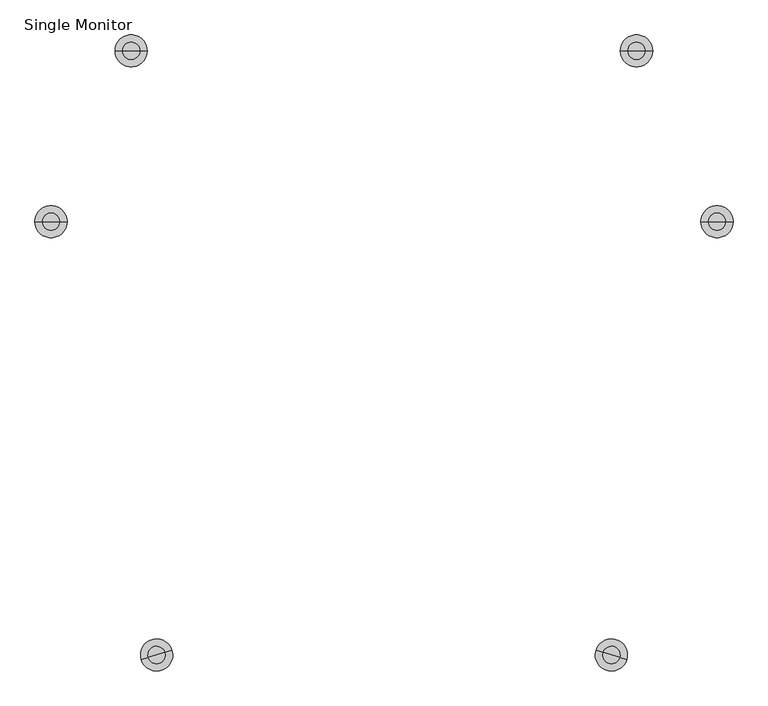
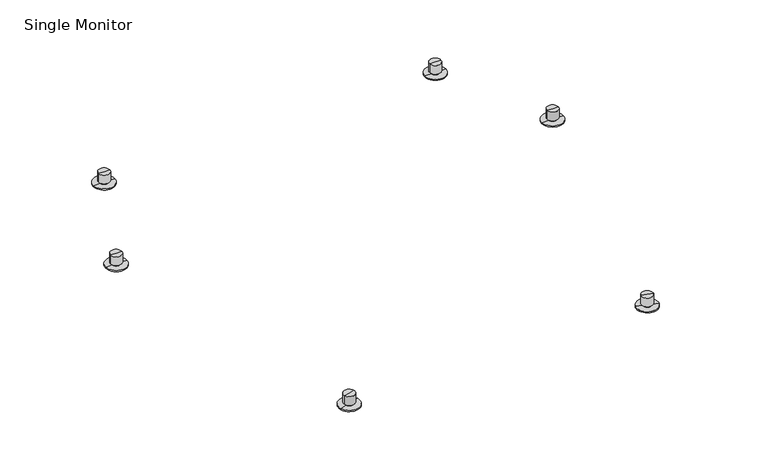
"""IFC4 building model written with IfcOpenShell, lengths in millimetres: furniture geometry, Steelcase - Media Scape - Table - Desk Height - Small D Shape with Attached Totem : Single Monitor."""

from ifc_helpers import new_model, si_unit, frame, origin, place, context, project, spatial, circle_curve, source, transform, mapped, element, save
from ifc_brep_helpers import plane_surface, cylinder_surface, advanced_brep


def single_monitor_ce154898(model_context):
    return source(origin(), model_context, "Body", "AdvancedBrep", [
        advanced_brep(
        [(485.6789396, -1123.2966322, 3.2766), (428.7557416, -1140.2672064, 3.2766), (428.7557416, -1140.2672064, 0.0), (485.6789396, -1123.2966322, 0.0), (467.8033176, -1128.6259106, 3.2766), (446.6313636, -1134.937928, 3.2766), (467.8033176, -1128.6259106, 9.1059), (446.6313636, -1134.937928, 9.1059), (472.5052285, -1127.2241248, 9.1059), (441.9294527, -1136.3397137, 9.1059), (472.5052285, -1127.2241248, 34.5059), (441.9294527, -1136.3397137, 34.5059), (457.2173406, -1131.7819193, 34.5059), (457.2173406, -1131.7819193, 0.0)],
        [
            (0, 1, circle_curve(frame((457.2173406, -1131.7819193, 3.2766), z_axis=(0.0, 0.0, -1.0), x_axis=(-0.9583178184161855, -0.28570432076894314, 0.0)), 29.6995407)),
            (1, 2),
            (2, 3, circle_curve(frame((457.2173406, -1131.7819193, 0.0), z_axis=(0.0, 0.0, 1.0), x_axis=(-0.9583178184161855, -0.28570432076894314, 0.0)), 29.6995407)),
            (3, 0),
            (1, 0, circle_curve(frame((457.2173406, -1131.7819193, 3.2766), z_axis=(0.0, 0.0, -1.0), x_axis=(-0.9583178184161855, -0.28570432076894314, 0.0)), 29.6995407)),
            (3, 2, circle_curve(frame((457.2173406, -1131.7819193, 0.0), z_axis=(0.0, 0.0, 1.0), x_axis=(-0.9583178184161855, -0.28570432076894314, 0.0)), 29.6995407)),
            (4, 5, circle_curve(frame((457.2173406, -1131.7819193, 3.2766), z_axis=(0.0, 0.0, -1.0), x_axis=(-0.9583178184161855, -0.28570432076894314, 0.0)), 11.0464157)),
            (5, 1),
            (0, 4),
            (5, 4, circle_curve(frame((457.2173406, -1131.7819193, 3.2766), z_axis=(0.0, 0.0, -1.0), x_axis=(-0.9583178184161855, -0.28570432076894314, 0.0)), 11.0464157)),
            (6, 7, circle_curve(frame((457.2173406, -1131.7819193, 9.1059), z_axis=(0.0, 0.0, -1.0), x_axis=(-0.9583178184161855, -0.28570432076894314, 0.0)), 11.0464157)),
            (7, 5),
            (4, 6),
            (7, 6, circle_curve(frame((457.2173406, -1131.7819193, 9.1059), z_axis=(0.0, 0.0, -1.0), x_axis=(-0.9583178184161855, -0.28570432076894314, 0.0)), 11.0464157)),
            (8, 9, circle_curve(frame((457.2173406, -1131.7819193, 9.1059), z_axis=(0.0, 0.0, -1.0), x_axis=(-0.9583178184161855, -0.28570432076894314, 0.0)), 15.9528369)),
            (9, 7),
            (6, 8),
            (9, 8, circle_curve(frame((457.2173406, -1131.7819193, 9.1059), z_axis=(0.0, 0.0, -1.0), x_axis=(-0.9583178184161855, -0.28570432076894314, 0.0)), 15.9528369)),
            (10, 11, circle_curve(frame((457.2173406, -1131.7819193, 34.5059), z_axis=(0.0, 0.0, -1.0), x_axis=(-0.9583178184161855, -0.28570432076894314, 0.0)), 15.9528369)),
            (11, 9),
            (8, 10),
            (11, 10, circle_curve(frame((457.2173406, -1131.7819193, 34.5059), z_axis=(0.0, 0.0, -1.0), x_axis=(-0.9583178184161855, -0.28570432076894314, 0.0)), 15.9528369)),
            (12, 11),
            (10, 12),
            (2, 13),
            (13, 3),
        ],
        [
            cylinder_surface(frame((457.2173406, -1131.7819193, 9.1059), z_axis=(0.0, 0.0, 1.0), x_axis=(-0.9583178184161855, -0.28570432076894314, 0.0)), 29.6995407),
            plane_surface(frame((457.2173406, -1131.7819193, 3.2766), z_axis=(0.0, 0.0, 1.0000000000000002), x_axis=(-0.9583178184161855, -0.28570432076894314, 0.0))),
            cylinder_surface(frame((457.2173406, -1131.7819193, 9.1059), z_axis=(0.0, 0.0, 1.0), x_axis=(-0.9583178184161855, -0.28570432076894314, 0.0)), 11.0464157),
            plane_surface(frame((457.2173406, -1131.7819193, 9.1059), z_axis=(0.0, 0.0, -1.0000000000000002), x_axis=(-0.9583178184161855, -0.28570432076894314, 0.0))),
            cylinder_surface(frame((457.2173406, -1131.7819193, 9.1059), z_axis=(0.0, 0.0, 1.0), x_axis=(-0.9583178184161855, -0.28570432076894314, 0.0)), 15.9528369),
            plane_surface(frame((457.2173406, -1131.7819193, 34.5059), z_axis=(0.0, 0.0, 1.0000000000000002), x_axis=(-0.9583178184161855, -0.28570432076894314, 0.0))),
            plane_surface(frame((457.2173406, -1131.7819193, 0.0), z_axis=(0.0, 0.0, -1.0000000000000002), x_axis=(-0.9583178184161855, -0.28570432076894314, 0.0))),
        ],
        [
            (0, [[1, 2, 3, 4]]),
            (0, [[5, -4, 6, -2]]),
            (1, [[7, 8, -1, 9]]),
            (1, [[10, -9, -5, -8]]),
            (2, [[11, 12, -7, 13]]),
            (2, [[14, -13, -10, -12]]),
            (3, [[15, 16, -11, 17]]),
            (3, [[18, -17, -14, -16]]),
            (4, [[19, 20, -15, 21]]),
            (4, [[22, -21, -18, -20]]),
            (5, [[23, -19, 24]]),
            (5, [[-24, -22, -23]]),
            (6, [[-3, 25, 26]]),
            (6, [[-6, -26, -25]]),
        ],
    ),
        advanced_brep(
        [(1297.4008909, -1131.7819193, 0.0), (1325.8624899, -1140.2672064, 0.0), (1268.9392919, -1123.2966322, 0.0), (1282.113003, -1127.2241248, 34.5059), (1312.6887788, -1136.3397137, 34.5059), (1297.4008909, -1131.7819193, 34.5059), (1282.113003, -1127.2241248, 9.1059), (1312.6887788, -1136.3397137, 9.1059), (1286.8149139, -1128.6259106, 9.1059), (1307.9868679, -1134.937928, 9.1059), (1286.8149139, -1128.6259106, 3.2766), (1307.9868679, -1134.937928, 3.2766), (1268.9392919, -1123.2966322, 3.2766), (1325.8624899, -1140.2672064, 3.2766)],
        [
            (0, 1),
            (1, 2, circle_curve(frame((1297.4008909, -1131.7819193, 0.0), z_axis=(0.0, 0.0, -1.0), x_axis=(0.9583178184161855, -0.28570432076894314, 0.0)), 29.6995407)),
            (2, 0),
            (2, 1, circle_curve(frame((1297.4008909, -1131.7819193, 0.0), z_axis=(0.0, 0.0, -1.0), x_axis=(0.9583178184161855, -0.28570432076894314, 0.0)), 29.6995407)),
            (3, 4, circle_curve(frame((1297.4008909, -1131.7819193, 34.5059), z_axis=(0.0, 0.0, 1.0), x_axis=(0.9583178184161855, -0.28570432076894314, 0.0)), 15.9528369)),
            (4, 5),
            (5, 3),
            (4, 3, circle_curve(frame((1297.4008909, -1131.7819193, 34.5059), z_axis=(0.0, 0.0, 1.0), x_axis=(0.9583178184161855, -0.28570432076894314, 0.0)), 15.9528369)),
            (6, 7, circle_curve(frame((1297.4008909, -1131.7819193, 9.1059), z_axis=(0.0, 0.0, 1.0), x_axis=(0.9583178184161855, -0.28570432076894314, 0.0)), 15.9528369)),
            (7, 4),
            (3, 6),
            (7, 6, circle_curve(frame((1297.4008909, -1131.7819193, 9.1059), z_axis=(0.0, 0.0, 1.0), x_axis=(0.9583178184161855, -0.28570432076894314, 0.0)), 15.9528369)),
            (8, 9, circle_curve(frame((1297.4008909, -1131.7819193, 9.1059), z_axis=(0.0, 0.0, 1.0), x_axis=(0.9583178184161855, -0.28570432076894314, 0.0)), 11.0464157)),
            (9, 7),
            (6, 8),
            (9, 8, circle_curve(frame((1297.4008909, -1131.7819193, 9.1059), z_axis=(0.0, 0.0, 1.0), x_axis=(0.9583178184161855, -0.28570432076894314, 0.0)), 11.0464157)),
            (10, 11, circle_curve(frame((1297.4008909, -1131.7819193, 3.2766), z_axis=(0.0, 0.0, 1.0), x_axis=(0.9583178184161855, -0.28570432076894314, 0.0)), 11.0464157)),
            (11, 9),
            (8, 10),
            (11, 10, circle_curve(frame((1297.4008909, -1131.7819193, 3.2766), z_axis=(0.0, 0.0, 1.0), x_axis=(0.9583178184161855, -0.28570432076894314, 0.0)), 11.0464157)),
            (12, 13, circle_curve(frame((1297.4008909, -1131.7819193, 3.2766), z_axis=(0.0, 0.0, 1.0), x_axis=(0.9583178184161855, -0.28570432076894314, 0.0)), 29.6995407)),
            (13, 11),
            (10, 12),
            (13, 12, circle_curve(frame((1297.4008909, -1131.7819193, 3.2766), z_axis=(0.0, 0.0, 1.0), x_axis=(0.9583178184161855, -0.28570432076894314, 0.0)), 29.6995407)),
            (1, 13),
            (12, 2),
        ],
        [
            plane_surface(frame((1297.4008909, -1131.7819193, 0.0), z_axis=(0.0, 0.0, -1.0000000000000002), x_axis=(0.9583178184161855, -0.28570432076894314, 0.0))),
            plane_surface(frame((1297.4008909, -1131.7819193, 34.5059), z_axis=(0.0, 0.0, 1.0000000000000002), x_axis=(0.9583178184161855, -0.28570432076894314, 0.0))),
            cylinder_surface(frame((1297.4008909, -1131.7819193, 9.1059), z_axis=(0.0, 0.0, -1.0), x_axis=(0.9583178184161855, -0.28570432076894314, 0.0)), 15.9528369),
            plane_surface(frame((1297.4008909, -1131.7819193, 9.1059), z_axis=(0.0, 0.0, -1.0000000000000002), x_axis=(0.9583178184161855, -0.28570432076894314, 0.0))),
            cylinder_surface(frame((1297.4008909, -1131.7819193, 9.1059), z_axis=(0.0, 0.0, -1.0), x_axis=(0.9583178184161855, -0.28570432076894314, 0.0)), 11.0464157),
            plane_surface(frame((1297.4008909, -1131.7819193, 3.2766), z_axis=(0.0, 0.0, 1.0000000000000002), x_axis=(0.9583178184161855, -0.28570432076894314, 0.0))),
            cylinder_surface(frame((1297.4008909, -1131.7819193, 9.1059), z_axis=(0.0, 0.0, -1.0), x_axis=(0.9583178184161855, -0.28570432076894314, 0.0)), 29.6995407),
        ],
        [
            (0, [[1, 2, 3]]),
            (0, [[-3, 4, -1]]),
            (1, [[5, 6, 7]]),
            (1, [[8, -7, -6]]),
            (2, [[9, 10, -5, 11]]),
            (2, [[12, -11, -8, -10]]),
            (3, [[13, 14, -9, 15]]),
            (3, [[16, -15, -12, -14]]),
            (4, [[17, 18, -13, 19]]),
            (4, [[20, -19, -16, -18]]),
            (5, [[21, 22, -17, 23]]),
            (5, [[24, -23, -20, -22]]),
            (6, [[-2, 25, -21, 26]]),
            (6, [[-4, -26, -24, -25]]),
        ],
    ),
        advanced_brep(
        [(1462.7661204, -331.3137623, 3.2766), (1522.1652018, -331.3137623, 3.2766), (1522.1652018, -331.3137623, 0.0), (1462.7661204, -331.3137623, 0.0), (1481.4192454, -331.3137623, 3.2766), (1503.5120768, -331.3137623, 3.2766), (1481.4192454, -331.3137623, 9.1059), (1503.5120768, -331.3137623, 9.1059), (1476.5128242, -331.3137623, 9.1059), (1508.418498, -331.3137623, 9.1059), (1476.5128242, -331.3137623, 34.5059), (1508.418498, -331.3137623, 34.5059), (1492.4656611, -331.3137623, 34.5059), (1492.4656611, -331.3137623, 0.0)],
        [
            (0, 1, circle_curve(frame((1492.4656611, -331.3137623, 3.2766), z_axis=(0.0, 0.0, -1.0), x_axis=(1.0, 0.0, 0.0)), 29.6995407)),
            (1, 2),
            (2, 3, circle_curve(frame((1492.4656611, -331.3137623, 0.0), z_axis=(0.0, 0.0, 1.0), x_axis=(1.0, 0.0, 0.0)), 29.6995407)),
            (3, 0),
            (1, 0, circle_curve(frame((1492.4656611, -331.3137623, 3.2766), z_axis=(0.0, 0.0, -1.0), x_axis=(1.0, 0.0, 0.0)), 29.6995407)),
            (3, 2, circle_curve(frame((1492.4656611, -331.3137623, 0.0), z_axis=(0.0, 0.0, 1.0), x_axis=(1.0, 0.0, 0.0)), 29.6995407)),
            (4, 5, circle_curve(frame((1492.4656611, -331.3137623, 3.2766), z_axis=(0.0, 0.0, -1.0), x_axis=(1.0, 0.0, 0.0)), 11.0464157)),
            (5, 1),
            (0, 4),
            (5, 4, circle_curve(frame((1492.4656611, -331.3137623, 3.2766), z_axis=(0.0, 0.0, -1.0), x_axis=(1.0, 0.0, 0.0)), 11.0464157)),
            (6, 7, circle_curve(frame((1492.4656611, -331.3137623, 9.1059), z_axis=(0.0, 0.0, -1.0), x_axis=(1.0, 0.0, 0.0)), 11.0464157)),
            (7, 5),
            (4, 6),
            (7, 6, circle_curve(frame((1492.4656611, -331.3137623, 9.1059), z_axis=(0.0, 0.0, -1.0), x_axis=(1.0, 0.0, 0.0)), 11.0464157)),
            (8, 9, circle_curve(frame((1492.4656611, -331.3137623, 9.1059), z_axis=(0.0, 0.0, -1.0), x_axis=(1.0, 0.0, 0.0)), 15.9528369)),
            (9, 7),
            (6, 8),
            (9, 8, circle_curve(frame((1492.4656611, -331.3137623, 9.1059), z_axis=(0.0, 0.0, -1.0), x_axis=(1.0, 0.0, 0.0)), 15.9528369)),
            (10, 11, circle_curve(frame((1492.4656611, -331.3137623, 34.5059), z_axis=(0.0, 0.0, -1.0), x_axis=(1.0, 0.0, 0.0)), 15.9528369)),
            (11, 9),
            (8, 10),
            (11, 10, circle_curve(frame((1492.4656611, -331.3137623, 34.5059), z_axis=(0.0, 0.0, -1.0), x_axis=(1.0, 0.0, 0.0)), 15.9528369)),
            (12, 11),
            (10, 12),
            (2, 13),
            (13, 3),
        ],
        [
            cylinder_surface(frame((1492.4656611, -331.3137623, 9.1059), z_axis=(0.0, 0.0, 1.0), x_axis=(1.0, 0.0, 0.0)), 29.6995407),
            plane_surface(frame((1492.4656611, -331.3137623, 3.2766), z_axis=(0.0, 0.0, 1.0), x_axis=(1.0, 0.0, 0.0))),
            cylinder_surface(frame((1492.4656611, -331.3137623, 9.1059), z_axis=(0.0, 0.0, 1.0), x_axis=(1.0, 0.0, 0.0)), 11.0464157),
            plane_surface(frame((1492.4656611, -331.3137623, 9.1059), z_axis=(0.0, 0.0, -1.0), x_axis=(1.0, 0.0, 0.0))),
            cylinder_surface(frame((1492.4656611, -331.3137623, 9.1059), z_axis=(0.0, 0.0, 1.0), x_axis=(1.0, 0.0, 0.0)), 15.9528369),
            plane_surface(frame((1492.4656611, -331.3137623, 34.5059), z_axis=(0.0, 0.0, 1.0), x_axis=(1.0, 0.0, 0.0))),
            plane_surface(frame((1492.4656611, -331.3137623, 0.0), z_axis=(0.0, 0.0, -1.0), x_axis=(1.0, 0.0, 0.0))),
        ],
        [
            (0, [[1, 2, 3, 4]]),
            (0, [[5, -4, 6, -2]]),
            (1, [[7, 8, -1, 9]]),
            (1, [[10, -9, -5, -8]]),
            (2, [[11, 12, -7, 13]]),
            (2, [[14, -13, -10, -12]]),
            (3, [[15, 16, -11, 17]]),
            (3, [[18, -17, -14, -16]]),
            (4, [[19, 20, -15, 21]]),
            (4, [[22, -21, -18, -20]]),
            (5, [[23, -19, 24]]),
            (5, [[-24, -22, -23]]),
            (6, [[-3, 25, 26]]),
            (6, [[-6, -26, -25]]),
        ],
    ),
        advanced_brep(
        [(262.1525798, -331.3137623, 0.0), (232.4530391, -331.3137623, 0.0), (291.8521204, -331.3137623, 0.0), (278.1054167, -331.3137623, 34.5059), (246.1997428, -331.3137623, 34.5059), (262.1525798, -331.3137623, 34.5059), (278.1054167, -331.3137623, 9.1059), (246.1997428, -331.3137623, 9.1059), (273.1989954, -331.3137623, 9.1059), (251.1061641, -331.3137623, 9.1059), (273.1989954, -331.3137623, 3.2766), (251.1061641, -331.3137623, 3.2766), (291.8521204, -331.3137623, 3.2766), (232.4530391, -331.3137623, 3.2766)],
        [
            (0, 1),
            (1, 2, circle_curve(frame((262.1525798, -331.3137623, 0.0), z_axis=(0.0, 0.0, -1.0), x_axis=(-1.0, 0.0, 0.0)), 29.6995407)),
            (2, 0),
            (2, 1, circle_curve(frame((262.1525798, -331.3137623, 0.0), z_axis=(0.0, 0.0, -1.0), x_axis=(-1.0, 0.0, 0.0)), 29.6995407)),
            (3, 4, circle_curve(frame((262.1525798, -331.3137623, 34.5059), z_axis=(0.0, 0.0, 1.0), x_axis=(-1.0, 0.0, 0.0)), 15.9528369)),
            (4, 5),
            (5, 3),
            (4, 3, circle_curve(frame((262.1525798, -331.3137623, 34.5059), z_axis=(0.0, 0.0, 1.0), x_axis=(-1.0, 0.0, 0.0)), 15.9528369)),
            (6, 7, circle_curve(frame((262.1525798, -331.3137623, 9.1059), z_axis=(0.0, 0.0, 1.0), x_axis=(-1.0, 0.0, 0.0)), 15.9528369)),
            (7, 4),
            (3, 6),
            (7, 6, circle_curve(frame((262.1525798, -331.3137623, 9.1059), z_axis=(0.0, 0.0, 1.0), x_axis=(-1.0, 0.0, 0.0)), 15.9528369)),
            (8, 9, circle_curve(frame((262.1525798, -331.3137623, 9.1059), z_axis=(0.0, 0.0, 1.0), x_axis=(-1.0, 0.0, 0.0)), 11.0464157)),
            (9, 7),
            (6, 8),
            (9, 8, circle_curve(frame((262.1525798, -331.3137623, 9.1059), z_axis=(0.0, 0.0, 1.0), x_axis=(-1.0, 0.0, 0.0)), 11.0464157)),
            (10, 11, circle_curve(frame((262.1525798, -331.3137623, 3.2766), z_axis=(0.0, 0.0, 1.0), x_axis=(-1.0, 0.0, 0.0)), 11.0464157)),
            (11, 9),
            (8, 10),
            (11, 10, circle_curve(frame((262.1525798, -331.3137623, 3.2766), z_axis=(0.0, 0.0, 1.0), x_axis=(-1.0, 0.0, 0.0)), 11.0464157)),
            (12, 13, circle_curve(frame((262.1525798, -331.3137623, 3.2766), z_axis=(0.0, 0.0, 1.0), x_axis=(-1.0, 0.0, 0.0)), 29.6995407)),
            (13, 11),
            (10, 12),
            (13, 12, circle_curve(frame((262.1525798, -331.3137623, 3.2766), z_axis=(0.0, 0.0, 1.0), x_axis=(-1.0, 0.0, 0.0)), 29.6995407)),
            (1, 13),
            (12, 2),
        ],
        [
            plane_surface(frame((262.1525798, -331.3137623, 0.0), z_axis=(0.0, 0.0, -1.0), x_axis=(-1.0, 0.0, 0.0))),
            plane_surface(frame((262.1525798, -331.3137623, 34.5059), z_axis=(0.0, 0.0, 1.0), x_axis=(-1.0, 0.0, 0.0))),
            cylinder_surface(frame((262.1525798, -331.3137623, 9.1059), z_axis=(0.0, 0.0, -1.0), x_axis=(-1.0, 0.0, 0.0)), 15.9528369),
            plane_surface(frame((262.1525798, -331.3137623, 9.1059), z_axis=(0.0, 0.0, -1.0), x_axis=(-1.0, 0.0, 0.0))),
            cylinder_surface(frame((262.1525798, -331.3137623, 9.1059), z_axis=(0.0, 0.0, -1.0), x_axis=(-1.0, 0.0, 0.0)), 11.0464157),
            plane_surface(frame((262.1525798, -331.3137623, 3.2766), z_axis=(0.0, 0.0, 1.0), x_axis=(-1.0, 0.0, 0.0))),
            cylinder_surface(frame((262.1525798, -331.3137623, 9.1059), z_axis=(0.0, 0.0, -1.0), x_axis=(-1.0, 0.0, 0.0)), 29.6995407),
        ],
        [
            (0, [[1, 2, 3]]),
            (0, [[-3, 4, -1]]),
            (1, [[5, 6, 7]]),
            (1, [[8, -7, -6]]),
            (2, [[9, 10, -5, 11]]),
            (2, [[12, -11, -8, -10]]),
            (3, [[13, 14, -9, 15]]),
            (3, [[16, -15, -12, -14]]),
            (4, [[17, 18, -13, 19]]),
            (4, [[20, -19, -16, -18]]),
            (5, [[21, 22, -17, 23]]),
            (5, [[24, -23, -20, -22]]),
            (6, [[-2, 25, -21, 26]]),
            (6, [[-4, -26, -24, -25]]),
        ],
    ),
        advanced_brep(
        [(1343.693159, -15.9494141, 0.0), (1313.9936183, -15.9494141, 0.0), (1373.3926997, -15.9494141, 0.0), (1359.6459959, -15.9494141, 34.5059), (1327.7403221, -15.9494141, 34.5059), (1343.693159, -15.9494141, 34.5059), (1359.6459959, -15.9494141, 9.1059), (1327.7403221, -15.9494141, 9.1059), (1354.7395747, -15.9494141, 9.1059), (1332.6467433, -15.9494141, 9.1059), (1354.7395747, -15.9494141, 3.2766), (1332.6467433, -15.9494141, 3.2766), (1373.3926997, -15.9494141, 3.2766), (1313.9936183, -15.9494141, 3.2766)],
        [
            (0, 1),
            (1, 2, circle_curve(frame((1343.693159, -15.9494141, 0.0), z_axis=(0.0, 0.0, -1.0), x_axis=(-1.0, 0.0, 0.0)), 29.6995407)),
            (2, 0),
            (2, 1, circle_curve(frame((1343.693159, -15.9494141, 0.0), z_axis=(0.0, 0.0, -1.0), x_axis=(-1.0, 0.0, 0.0)), 29.6995407)),
            (3, 4, circle_curve(frame((1343.693159, -15.9494141, 34.5059), z_axis=(0.0, 0.0, 1.0), x_axis=(-1.0, 0.0, 0.0)), 15.9528369)),
            (4, 5),
            (5, 3),
            (4, 3, circle_curve(frame((1343.693159, -15.9494141, 34.5059), z_axis=(0.0, 0.0, 1.0), x_axis=(-1.0, 0.0, 0.0)), 15.9528369)),
            (6, 7, circle_curve(frame((1343.693159, -15.9494141, 9.1059), z_axis=(0.0, 0.0, 1.0), x_axis=(-1.0, 0.0, 0.0)), 15.9528369)),
            (7, 4),
            (3, 6),
            (7, 6, circle_curve(frame((1343.693159, -15.9494141, 9.1059), z_axis=(0.0, 0.0, 1.0), x_axis=(-1.0, 0.0, 0.0)), 15.9528369)),
            (8, 9, circle_curve(frame((1343.693159, -15.9494141, 9.1059), z_axis=(0.0, 0.0, 1.0), x_axis=(-1.0, 0.0, 0.0)), 11.0464157)),
            (9, 7),
            (6, 8),
            (9, 8, circle_curve(frame((1343.693159, -15.9494141, 9.1059), z_axis=(0.0, 0.0, 1.0), x_axis=(-1.0, 0.0, 0.0)), 11.0464157)),
            (10, 11, circle_curve(frame((1343.693159, -15.9494141, 3.2766), z_axis=(0.0, 0.0, 1.0), x_axis=(-1.0, 0.0, 0.0)), 11.0464157)),
            (11, 9),
            (8, 10),
            (11, 10, circle_curve(frame((1343.693159, -15.9494141, 3.2766), z_axis=(0.0, 0.0, 1.0), x_axis=(-1.0, 0.0, 0.0)), 11.0464157)),
            (12, 13, circle_curve(frame((1343.693159, -15.9494141, 3.2766), z_axis=(0.0, 0.0, 1.0), x_axis=(-1.0, 0.0, 0.0)), 29.6995407)),
            (13, 11),
            (10, 12),
            (13, 12, circle_curve(frame((1343.693159, -15.9494141, 3.2766), z_axis=(0.0, 0.0, 1.0), x_axis=(-1.0, 0.0, 0.0)), 29.6995407)),
            (1, 13),
            (12, 2),
        ],
        [
            plane_surface(frame((1343.693159, -15.9494141, 0.0), z_axis=(0.0, 0.0, -1.0), x_axis=(-1.0, 0.0, 0.0))),
            plane_surface(frame((1343.693159, -15.9494141, 34.5059), z_axis=(0.0, 0.0, 1.0), x_axis=(-1.0, 0.0, 0.0))),
            cylinder_surface(frame((1343.693159, -15.9494141, 9.1059), z_axis=(0.0, 0.0, -1.0), x_axis=(-1.0, 0.0, 0.0)), 15.9528369),
            plane_surface(frame((1343.693159, -15.9494141, 9.1059), z_axis=(0.0, 0.0, -1.0), x_axis=(-1.0, 0.0, 0.0))),
            cylinder_surface(frame((1343.693159, -15.9494141, 9.1059), z_axis=(0.0, 0.0, -1.0), x_axis=(-1.0, 0.0, 0.0)), 11.0464157),
            plane_surface(frame((1343.693159, -15.9494141, 3.2766), z_axis=(0.0, 0.0, 1.0), x_axis=(-1.0, 0.0, 0.0))),
            cylinder_surface(frame((1343.693159, -15.9494141, 9.1059), z_axis=(0.0, 0.0, -1.0), x_axis=(-1.0, 0.0, 0.0)), 29.6995407),
        ],
        [
            (0, [[1, 2, 3]]),
            (0, [[-3, 4, -1]]),
            (1, [[5, 6, 7]]),
            (1, [[8, -7, -6]]),
            (2, [[9, 10, -5, 11]]),
            (2, [[12, -11, -8, -10]]),
            (3, [[13, 14, -9, 15]]),
            (3, [[16, -15, -12, -14]]),
            (4, [[17, 18, -13, 19]]),
            (4, [[20, -19, -16, -18]]),
            (5, [[21, 22, -17, 23]]),
            (5, [[24, -23, -20, -22]]),
            (6, [[-2, 25, -21, 26]]),
            (6, [[-4, -26, -24, -25]]),
        ],
    ),
        advanced_brep(
        [(410.243159, -15.9494141, 0.0), (380.5436183, -15.9494141, 0.0), (439.9426997, -15.9494141, 0.0), (426.1959959, -15.9494141, 34.5059), (394.2903221, -15.9494141, 34.5059), (410.243159, -15.9494141, 34.5059), (426.1959959, -15.9494141, 9.1059), (394.2903221, -15.9494141, 9.1059), (421.2895747, -15.9494141, 9.1059), (399.1967433, -15.9494141, 9.1059), (421.2895747, -15.9494141, 3.2766), (399.1967433, -15.9494141, 3.2766), (439.9426997, -15.9494141, 3.2766), (380.5436183, -15.9494141, 3.2766)],
        [
            (0, 1),
            (1, 2, circle_curve(frame((410.243159, -15.9494141, 0.0), z_axis=(0.0, 0.0, -1.0), x_axis=(-1.0, 0.0, 0.0)), 29.6995407)),
            (2, 0),
            (2, 1, circle_curve(frame((410.243159, -15.9494141, 0.0), z_axis=(0.0, 0.0, -1.0), x_axis=(-1.0, 0.0, 0.0)), 29.6995407)),
            (3, 4, circle_curve(frame((410.243159, -15.9494141, 34.5059), z_axis=(0.0, 0.0, 1.0), x_axis=(-1.0, 0.0, 0.0)), 15.9528369)),
            (4, 5),
            (5, 3),
            (4, 3, circle_curve(frame((410.243159, -15.9494141, 34.5059), z_axis=(0.0, 0.0, 1.0), x_axis=(-1.0, 0.0, 0.0)), 15.9528369)),
            (6, 7, circle_curve(frame((410.243159, -15.9494141, 9.1059), z_axis=(0.0, 0.0, 1.0), x_axis=(-1.0, 0.0, 0.0)), 15.9528369)),
            (7, 4),
            (3, 6),
            (7, 6, circle_curve(frame((410.243159, -15.9494141, 9.1059), z_axis=(0.0, 0.0, 1.0), x_axis=(-1.0, 0.0, 0.0)), 15.9528369)),
            (8, 9, circle_curve(frame((410.243159, -15.9494141, 9.1059), z_axis=(0.0, 0.0, 1.0), x_axis=(-1.0, 0.0, 0.0)), 11.0464157)),
            (9, 7),
            (6, 8),
            (9, 8, circle_curve(frame((410.243159, -15.9494141, 9.1059), z_axis=(0.0, 0.0, 1.0), x_axis=(-1.0, 0.0, 0.0)), 11.0464157)),
            (10, 11, circle_curve(frame((410.243159, -15.9494141, 3.2766), z_axis=(0.0, 0.0, 1.0), x_axis=(-1.0, 0.0, 0.0)), 11.0464157)),
            (11, 9),
            (8, 10),
            (11, 10, circle_curve(frame((410.243159, -15.9494141, 3.2766), z_axis=(0.0, 0.0, 1.0), x_axis=(-1.0, 0.0, 0.0)), 11.0464157)),
            (12, 13, circle_curve(frame((410.243159, -15.9494141, 3.2766), z_axis=(0.0, 0.0, 1.0), x_axis=(-1.0, 0.0, 0.0)), 29.6995407)),
            (13, 11),
            (10, 12),
            (13, 12, circle_curve(frame((410.243159, -15.9494141, 3.2766), z_axis=(0.0, 0.0, 1.0), x_axis=(-1.0, 0.0, 0.0)), 29.6995407)),
            (1, 13),
            (12, 2),
        ],
        [
            plane_surface(frame((410.243159, -15.9494141, 0.0), z_axis=(0.0, 0.0, -1.0), x_axis=(-1.0, 0.0, 0.0))),
            plane_surface(frame((410.243159, -15.9494141, 34.5059), z_axis=(0.0, 0.0, 1.0), x_axis=(-1.0, 0.0, 0.0))),
            cylinder_surface(frame((410.243159, -15.9494141, 9.1059), z_axis=(0.0, 0.0, -1.0), x_axis=(-1.0, 0.0, 0.0)), 15.9528369),
            plane_surface(frame((410.243159, -15.9494141, 9.1059), z_axis=(0.0, 0.0, -1.0), x_axis=(-1.0, 0.0, 0.0))),
            cylinder_surface(frame((410.243159, -15.9494141, 9.1059), z_axis=(0.0, 0.0, -1.0), x_axis=(-1.0, 0.0, 0.0)), 11.0464157),
            plane_surface(frame((410.243159, -15.9494141, 3.2766), z_axis=(0.0, 0.0, 1.0), x_axis=(-1.0, 0.0, 0.0))),
            cylinder_surface(frame((410.243159, -15.9494141, 9.1059), z_axis=(0.0, 0.0, -1.0), x_axis=(-1.0, 0.0, 0.0)), 29.6995407),
        ],
        [
            (0, [[1, 2, 3]]),
            (0, [[-3, 4, -1]]),
            (1, [[5, 6, 7]]),
            (1, [[8, -7, -6]]),
            (2, [[9, 10, -5, 11]]),
            (2, [[12, -11, -8, -10]]),
            (3, [[13, 14, -9, 15]]),
            (3, [[16, -15, -12, -14]]),
            (4, [[17, 18, -13, 19]]),
            (4, [[20, -19, -16, -18]]),
            (5, [[21, 22, -17, 23]]),
            (5, [[24, -23, -20, -22]]),
            (6, [[-2, 25, -21, 26]]),
            (6, [[-4, -26, -24, -25]]),
        ],
    ),
    ])


if __name__ == "__main__":
    model = new_model("IFC4")
    model_context = context("Model", 3, world=origin())
    ifc_project = project(units=[si_unit("LENGTHUNIT", "METRE", prefix="MILLI")], contexts=[model_context])
    site = spatial("IfcSite", under=ifc_project)
    building = spatial("IfcBuilding", under=site)
    placement = place(None, origin())
    single_monitor_shape = single_monitor_ce154898(model_context)
    element("IfcFurniture", 1, ObjectType="Steelcase - Media Scape - Table - Desk Height - Small D Shape with Attached Totem : Single Monitor", at=placement, inside=building, context=model_context, shape_type="MappedRepresentation", body=[
        mapped(single_monitor_shape, transform((0.0, 0.0, 0.0), x_axis=(1.0, 0.0, 0.0), y_axis=(0.0, 1.0, 0.0), z_axis=(0.0, 0.0, 1.0))),
    ])
    save(model, "model.ifc")
